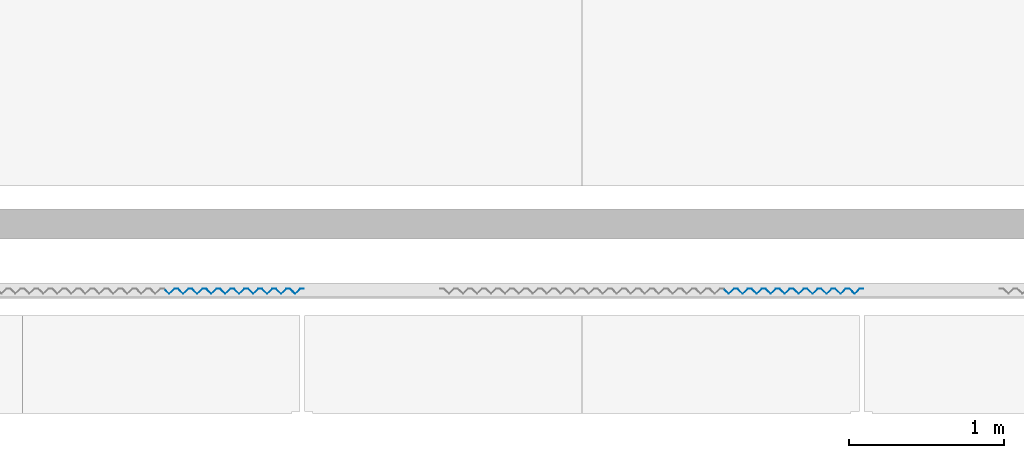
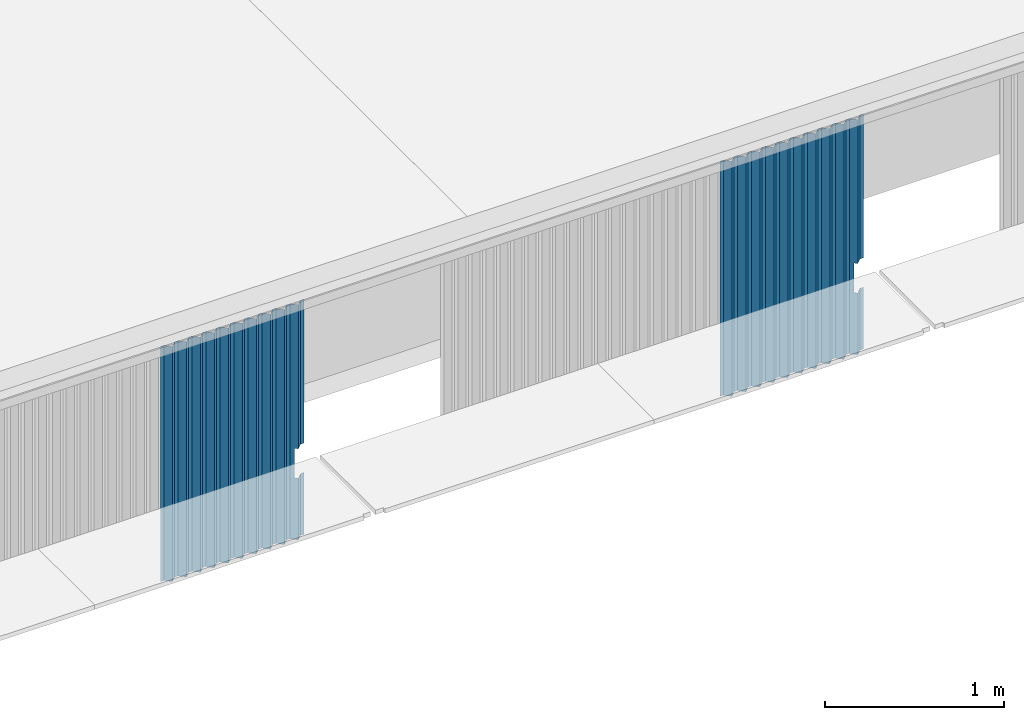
# One storey, part 22 of 37: 2 walls.
"""IFC4X3_ADD2 building model written with IfcOpenShell, lengths in millimetres."""

from ifc_helpers import new_model, si_unit, direction, frame, origin_with_axes, place, context, subcontext, project, spatial, polygons, element, save


model = new_model("IFC4X3_ADD2")

# Units and contexts
model_context = context("Model", 3, precision=1e-05, world=origin_with_axes(), true_north=direction((0.0, 1.0)))
body_context = subcontext(model_context, "Body", "Model", "MODEL_VIEW")
ifc_project = project(units=[si_unit("LENGTHUNIT", "METRE", prefix="MILLI"), si_unit("AREAUNIT", "SQUARE_METRE"), si_unit("VOLUMEUNIT", "CUBIC_METRE"), si_unit("PLANEANGLEUNIT", "RADIAN"), si_unit("TIMEUNIT", "SECOND"), si_unit("MASSUNIT", "GRAM")], contexts=[model_context])

# Site, building, storey
site_placement = place(None, origin_with_axes())
site = spatial("IfcSite", under=ifc_project, at=site_placement, Name="Site", CompositionType="ELEMENT")
building_placement = place(site_placement, origin_with_axes())
building = spatial("IfcBuilding", under=site, at=building_placement, Name="IFC Building Story")
storey_placement = place(building_placement, frame((0.0, 0.0, 14400.0), z_axis=(0.0, 0.0, 1.0), x_axis=(1.0, 0.0, 0.0)))
storey = spatial("IfcBuildingStorey", under=building, at=storey_placement, Name="040", Elevation=14400.0)

# Walls
wall_1_placement = place(storey_placement, frame((0.0, 0.0, -14400.0), z_axis=(0.0, 0.0, 1.0), x_axis=(1.0, 0.0, 0.0)))
element("IfcWall", 1, at=wall_1_placement, inside=storey, Name="BB_07.10_Gevelbekleding_PuntProfiel, 900 mm, console rechts_GMO:900 x 1600 mm", ObjectType="BB_07.10_Gevelbekleding_PuntProfiel, 900 mm, console rechts_GMO:900 x 1600 mm", PredefinedType="NOTDEFINED", context=body_context, shape_type="Tessellation", body=[
    polygons([(-21960.00000000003, -434.9999999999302, 14060.0), (-21960.00000000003, -433.5857864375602, 14060.0), (-21944.99999999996, -448.585786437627, 14060.0), (-21911.41421356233, -414.9999999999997, 14060.0), (-21888.58578643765, -414.9999999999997, 14060.0), (-21889.00000000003, -415.9999999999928, 14060.0), (-21910.99999999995, -415.9999999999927, 14060.0), (-21944.99999999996, -449.9999999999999, 14060.0), (-21960.00000000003, -434.9999999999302, 13860.0), (-21960.00000000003, -433.5857864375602, 13860.0), (-21944.99999999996, -449.9999999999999, 13860.0), (-21910.99999999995, -415.9999999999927, 13860.0), (-21889.00000000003, -415.9999999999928, 13860.0), (-21888.58578643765, -414.9999999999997, 13860.0), (-21911.41421356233, -414.9999999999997, 13860.0), (-21944.99999999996, -448.585786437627, 13860.0), (-22721.00000000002, -415.9999999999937, 15040.0), (-22699.00000000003, -415.9999999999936, 15040.0), (-22665.00000000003, -449.9999999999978, 15040.0), (-22631.00000000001, -415.9999999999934, 15040.0), (-22609.00000000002, -415.9999999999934, 15040.0), (-22575.00000000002, -449.9999999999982, 15040.0), (-22541.00000000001, -415.9999999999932, 15040.0), (-22519.00000000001, -415.9999999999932, 15040.0), (-22485.00000000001, -449.9999999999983, 15040.0), (-22451.0, -415.9999999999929, 15040.0), (-22429.0, -415.9999999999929, 15040.0), (-22395.0, -449.9999999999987, 15040.0), (-22360.99999999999, -415.9999999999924, 15040.0), (-22338.99999999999, -415.9999999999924, 15040.0), (-22304.99999999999, -449.9999999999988, 15040.0), (-22270.99999999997, -415.9999999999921, 15040.0), (-22248.99999999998, -415.9999999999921, 15040.0), (-22214.99999999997, -449.9999999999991, 15040.0), (-22180.99999999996, -415.9999999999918, 15040.0), (-22158.99999999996, -415.9999999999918, 15040.0), (-22124.99999999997, -449.9999999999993, 15040.0), (-22090.99999999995, -415.9999999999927, 15040.0), (-22068.99999999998, -415.9999999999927, 15040.0), (-22034.99999999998, -449.9999999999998, 15040.0), (-22000.99999999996, -415.9999999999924, 15040.0), (-21978.99999999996, -415.9999999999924, 15040.0), (-21944.99999999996, -449.9999999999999, 15040.0), (-21910.99999999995, -415.9999999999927, 15040.0), (-21889.00000000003, -415.9999999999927, 15040.0), (-21888.58578643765, -414.9999999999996, 15040.0), (-21911.41421356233, -414.9999999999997, 15040.0), (-21944.99999999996, -448.585786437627, 15040.0), (-21978.58578643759, -414.9999999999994, 15040.0), (-22001.41421356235, -414.9999999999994, 15040.0), (-22034.99999999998, -448.5857864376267, 15040.0), (-22068.5857864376, -414.9999999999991, 15040.0), (-22091.41421356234, -414.9999999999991, 15040.0), (-22124.99999999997, -448.5857864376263, 15040.0), (-22158.58578643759, -414.9999999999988, 15040.0), (-22181.41421356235, -414.9999999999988, 15040.0), (-22214.99999999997, -448.5857864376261, 15040.0), (-22248.5857864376, -414.9999999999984, 15040.0), (-22271.41421356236, -414.9999999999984, 15040.0), (-22304.99999999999, -448.5857864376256, 15040.0), (-22338.58578643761, -414.9999999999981, 15040.0), (-22361.41421356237, -414.9999999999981, 15040.0), (-22395.0, -448.5857864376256, 15040.0), (-22428.58578643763, -414.999999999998, 15040.0), (-22451.41421356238, -414.999999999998, 15040.0), (-22485.00000000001, -448.5857864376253, 15040.0), (-22518.58578643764, -414.9999999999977, 15040.0), (-22541.41421356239, -414.9999999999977, 15040.0), (-22575.00000000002, -448.5857864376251, 15040.0), (-22608.58578643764, -414.9999999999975, 15040.0), (-22631.4142135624, -414.9999999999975, 15040.0), (-22665.00000000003, -448.5857864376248, 15040.0), (-22698.58578643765, -414.9999999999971, 15040.0), (-22721.4142135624, -414.9999999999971, 15040.0), (-22755.00000000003, -448.5857864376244, 15040.0), (-22788.58578643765, -414.9999999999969, 15040.0), (-22811.4142135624, -414.9999999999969, 15040.0), (-22811.00000000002, -415.9999999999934, 15040.0), (-22789.00000000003, -415.9999999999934, 15040.0), (-22755.00000000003, -449.9999999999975, 15040.0), (-22721.00000000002, -415.9999999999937, 13440.0), (-22755.00000000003, -449.9999999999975, 13440.0), (-22789.00000000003, -415.9999999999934, 13440.0), (-22811.00000000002, -415.9999999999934, 13440.0), (-22811.4142135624, -414.9999999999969, 13440.0), (-22788.58578643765, -414.9999999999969, 13440.0), (-22755.00000000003, -448.5857864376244, 13440.0), (-22721.4142135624, -414.9999999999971, 13440.0), (-22698.58578643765, -414.9999999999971, 13440.0), (-22665.00000000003, -448.5857864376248, 13440.0), (-22631.4142135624, -414.9999999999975, 13440.0), (-22608.58578643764, -414.9999999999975, 13440.0), (-22575.00000000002, -448.5857864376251, 13440.0), (-22541.41421356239, -414.9999999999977, 13440.0), (-22518.58578643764, -414.9999999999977, 13440.0), (-22485.00000000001, -448.5857864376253, 13440.0), (-22451.41421356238, -414.999999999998, 13440.0), (-22428.58578643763, -414.999999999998, 13440.0), (-22395.0, -448.5857864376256, 13440.0), (-22361.41421356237, -414.9999999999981, 13440.0), (-22338.58578643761, -414.9999999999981, 13440.0), (-22304.99999999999, -448.5857864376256, 13440.0), (-22271.41421356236, -414.9999999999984, 13440.0), (-22248.5857864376, -414.9999999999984, 13440.0), (-22214.99999999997, -448.5857864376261, 13440.0), (-22181.41421356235, -414.9999999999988, 13440.0), (-22158.58578643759, -414.9999999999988, 13440.0), (-22124.99999999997, -448.5857864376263, 13440.0), (-22091.41421356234, -414.9999999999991, 13440.0), (-22068.5857864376, -414.9999999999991, 13440.0), (-22034.99999999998, -448.5857864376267, 13440.0), (-22001.41421356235, -414.9999999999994, 13440.0), (-21978.58578643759, -414.9999999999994, 13440.0), (-21944.99999999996, -448.585786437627, 13440.0), (-21911.41421356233, -414.9999999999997, 13440.0), (-21888.58578643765, -414.9999999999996, 13440.0), (-21889.00000000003, -415.9999999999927, 13440.0), (-21910.99999999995, -415.9999999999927, 13440.0), (-21944.99999999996, -449.9999999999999, 13440.0), (-21978.99999999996, -415.9999999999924, 13440.0), (-22000.99999999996, -415.9999999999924, 13440.0), (-22034.99999999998, -449.9999999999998, 13440.0), (-22068.99999999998, -415.9999999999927, 13440.0), (-22090.99999999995, -415.9999999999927, 13440.0), (-22124.99999999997, -449.9999999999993, 13440.0), (-22158.99999999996, -415.9999999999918, 13440.0), (-22180.99999999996, -415.9999999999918, 13440.0), (-22214.99999999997, -449.9999999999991, 13440.0), (-22248.99999999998, -415.9999999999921, 13440.0), (-22270.99999999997, -415.9999999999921, 13440.0), (-22304.99999999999, -449.9999999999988, 13440.0), (-22338.99999999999, -415.9999999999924, 13440.0), (-22360.99999999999, -415.9999999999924, 13440.0), (-22395.0, -449.9999999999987, 13440.0), (-22429.0, -415.9999999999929, 13440.0), (-22451.0, -415.9999999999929, 13440.0), (-22485.00000000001, -449.9999999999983, 13440.0), (-22519.00000000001, -415.9999999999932, 13440.0), (-22541.00000000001, -415.9999999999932, 13440.0), (-22575.00000000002, -449.9999999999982, 13440.0), (-22609.00000000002, -415.9999999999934, 13440.0), (-22631.00000000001, -415.9999999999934, 13440.0), (-22665.00000000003, -449.9999999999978, 13440.0), (-22699.00000000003, -415.9999999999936, 13440.0)], [[[7, 8, 3]], [[7, 3, 4]], [[4, 5, 6]], [[4, 6, 7]], [[8, 1, 2]], [[8, 2, 3]], [[2, 1, 9, 10]], [[12, 13, 14]], [[12, 14, 15]], [[16, 10, 9]], [[16, 9, 11]], [[11, 12, 15]], [[11, 15, 16]], [[44, 45, 46]], [[44, 46, 47]], [[48, 49, 42]], [[48, 42, 43]], [[43, 44, 47]], [[43, 47, 48]], [[49, 50, 41]], [[49, 41, 42]], [[51, 52, 39]], [[51, 39, 40]], [[40, 41, 50]], [[40, 50, 51]], [[52, 53, 38]], [[52, 38, 39]], [[54, 55, 36]], [[54, 36, 37]], [[37, 38, 53]], [[37, 53, 54]], [[55, 56, 35]], [[55, 35, 36]], [[57, 58, 33]], [[57, 33, 34]], [[34, 35, 56]], [[34, 56, 57]], [[58, 59, 32]], [[58, 32, 33]], [[60, 61, 30]], [[60, 30, 31]], [[31, 32, 59]], [[31, 59, 60]], [[61, 62, 29]], [[61, 29, 30]], [[63, 64, 27]], [[63, 27, 28]], [[28, 29, 62]], [[28, 62, 63]], [[64, 65, 26]], [[64, 26, 27]], [[66, 67, 24]], [[66, 24, 25]], [[25, 26, 65]], [[25, 65, 66]], [[67, 68, 23]], [[67, 23, 24]], [[69, 70, 21]], [[69, 21, 22]], [[22, 23, 68]], [[22, 68, 69]], [[70, 71, 20]], [[70, 20, 21]], [[72, 73, 18]], [[72, 18, 19]], [[19, 20, 71]], [[19, 71, 72]], [[73, 74, 17]], [[73, 17, 18]], [[79, 80, 75]], [[79, 75, 76]], [[76, 77, 78]], [[76, 78, 79]], [[80, 17, 74]], [[80, 74, 75]], [[83, 84, 85]], [[83, 85, 86]], [[87, 88, 81]], [[87, 81, 82]], [[82, 83, 86]], [[82, 86, 87]], [[118, 119, 114]], [[118, 114, 115]], [[115, 116, 117]], [[115, 117, 118]], [[121, 122, 111]], [[121, 111, 112]], [[112, 113, 120]], [[112, 120, 121]], [[113, 114, 119]], [[113, 119, 120]], [[124, 125, 108]], [[124, 108, 109]], [[109, 110, 123]], [[109, 123, 124]], [[110, 111, 122]], [[110, 122, 123]], [[127, 128, 105]], [[127, 105, 106]], [[106, 107, 126]], [[106, 126, 127]], [[107, 108, 125]], [[107, 125, 126]], [[130, 131, 102]], [[130, 102, 103]], [[103, 104, 129]], [[103, 129, 130]], [[104, 105, 128]], [[104, 128, 129]], [[133, 134, 99]], [[133, 99, 100]], [[100, 101, 132]], [[100, 132, 133]], [[101, 102, 131]], [[101, 131, 132]], [[136, 137, 96]], [[136, 96, 97]], [[97, 98, 135]], [[97, 135, 136]], [[98, 99, 134]], [[98, 134, 135]], [[139, 140, 93]], [[139, 93, 94]], [[94, 95, 138]], [[94, 138, 139]], [[95, 96, 137]], [[95, 137, 138]], [[142, 143, 90]], [[142, 90, 91]], [[91, 92, 141]], [[91, 141, 142]], [[92, 93, 140]], [[92, 140, 141]], [[144, 81, 88]], [[144, 88, 89]], [[89, 90, 143]], [[89, 143, 144]], [[18, 17, 81, 144]], [[19, 18, 144, 143]], [[20, 19, 143, 142]], [[21, 20, 142, 141]], [[22, 21, 141, 140]], [[23, 22, 140, 139]], [[24, 23, 139, 138]], [[25, 24, 138, 137]], [[26, 25, 137, 136]], [[27, 26, 136, 135]], [[28, 27, 135, 134]], [[29, 28, 134, 133]], [[30, 29, 133, 132]], [[31, 30, 132, 131]], [[32, 31, 131, 130]], [[33, 32, 130, 129]], [[34, 33, 129, 128]], [[35, 34, 128, 127]], [[36, 35, 127, 126]], [[37, 36, 126, 125]], [[38, 37, 125, 124]], [[54, 53, 109, 108]], [[55, 54, 108, 107]], [[56, 55, 107, 106]], [[57, 56, 106, 105]], [[58, 57, 105, 104]], [[59, 58, 104, 103]], [[60, 59, 103, 102]], [[61, 60, 102, 101]], [[62, 61, 101, 100]], [[63, 62, 100, 99]], [[64, 63, 99, 98]], [[65, 64, 98, 97]], [[66, 65, 97, 96]], [[67, 66, 96, 95]], [[68, 67, 95, 94]], [[69, 68, 94, 93]], [[70, 69, 93, 92]], [[71, 70, 92, 91]], [[72, 71, 91, 90]], [[73, 72, 90, 89]], [[74, 73, 89, 88]], [[80, 79, 83, 82]], [[17, 80, 82, 81]], [[39, 38, 124, 123]], [[40, 39, 123, 122]], [[41, 40, 122, 121]], [[42, 41, 121, 120]], [[1, 8, 43]], [[1, 43, 42]], [[42, 9, 1]], [[42, 120, 9]], [[120, 119, 11]], [[120, 11, 9]], [[44, 43, 8, 7]], [[45, 44, 7, 6]], [[47, 46, 5, 4]], [[48, 47, 4, 3]], [[10, 16, 114]], [[10, 114, 113]], [[113, 2, 10]], [[2, 113, 49]], [[49, 48, 2]], [[48, 3, 2]], [[50, 49, 113, 112]], [[51, 50, 112, 111]], [[52, 51, 111, 110]], [[53, 52, 110, 109]], [[75, 74, 88, 87]], [[76, 75, 87, 86]], [[46, 45, 6, 5]], [[77, 76, 86, 85]], [[78, 77, 85, 84]], [[79, 78, 84, 83]], [[117, 116, 14, 13]], [[115, 114, 16, 15]], [[116, 115, 15, 14]], [[118, 117, 13, 12]], [[119, 118, 12, 11]]]),
])
wall_2_placement = place(storey_placement, frame((0.0, 0.0, -14400.0), z_axis=(0.0, 0.0, 1.0), x_axis=(1.0, 0.0, 0.0)))
element("IfcWall", 2, at=wall_2_placement, inside=storey, Name="BB_07.10_Gevelbekleding_PuntProfiel, 900 mm, console rechts_GMO:900 x 1600 mm", ObjectType="BB_07.10_Gevelbekleding_PuntProfiel, 900 mm, console rechts_GMO:900 x 1600 mm", PredefinedType="NOTDEFINED", context=body_context, shape_type="Tessellation", body=[
    polygons([(-18360.00000000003, -434.9999999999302, 14060.0), (-18360.00000000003, -433.5857864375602, 14060.0), (-18344.99999999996, -448.585786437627, 14060.0), (-18311.41421356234, -414.9999999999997, 14060.0), (-18288.58578643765, -414.9999999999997, 14060.0), (-18289.00000000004, -415.9999999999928, 14060.0), (-18310.99999999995, -415.9999999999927, 14060.0), (-18344.99999999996, -449.9999999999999, 14060.0), (-18360.00000000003, -434.9999999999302, 13860.0), (-18360.00000000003, -433.5857864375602, 13860.0), (-18344.99999999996, -449.9999999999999, 13860.0), (-18310.99999999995, -415.9999999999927, 13860.0), (-18289.00000000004, -415.9999999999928, 13860.0), (-18288.58578643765, -414.9999999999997, 13860.0), (-18311.41421356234, -414.9999999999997, 13860.0), (-18344.99999999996, -448.585786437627, 13860.0), (-19121.00000000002, -415.9999999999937, 15040.0), (-19099.00000000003, -415.9999999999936, 15040.0), (-19065.00000000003, -449.9999999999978, 15040.0), (-19031.00000000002, -415.9999999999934, 15040.0), (-19009.00000000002, -415.9999999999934, 15040.0), (-18975.00000000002, -449.9999999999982, 15040.0), (-18941.00000000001, -415.9999999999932, 15040.0), (-18919.00000000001, -415.9999999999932, 15040.0), (-18885.00000000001, -449.9999999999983, 15040.0), (-18851.0, -415.9999999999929, 15040.0), (-18829.0, -415.9999999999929, 15040.0), (-18795.0, -449.9999999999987, 15040.0), (-18760.99999999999, -415.9999999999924, 15040.0), (-18738.99999999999, -415.9999999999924, 15040.0), (-18704.99999999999, -449.9999999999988, 15040.0), (-18670.99999999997, -415.9999999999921, 15040.0), (-18648.99999999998, -415.9999999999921, 15040.0), (-18614.99999999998, -449.9999999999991, 15040.0), (-18580.99999999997, -415.9999999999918, 15040.0), (-18558.99999999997, -415.9999999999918, 15040.0), (-18524.99999999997, -449.9999999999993, 15040.0), (-18490.99999999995, -415.9999999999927, 15040.0), (-18468.99999999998, -415.9999999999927, 15040.0), (-18434.99999999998, -449.9999999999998, 15040.0), (-18400.99999999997, -415.9999999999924, 15040.0), (-18378.99999999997, -415.9999999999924, 15040.0), (-18344.99999999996, -449.9999999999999, 15040.0), (-18310.99999999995, -415.9999999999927, 15040.0), (-18289.00000000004, -415.9999999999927, 15040.0), (-18288.58578643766, -414.9999999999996, 15040.0), (-18311.41421356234, -414.9999999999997, 15040.0), (-18344.99999999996, -448.585786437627, 15040.0), (-18378.5857864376, -414.9999999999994, 15040.0), (-18401.41421356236, -414.9999999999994, 15040.0), (-18434.99999999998, -448.5857864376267, 15040.0), (-18468.5857864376, -414.9999999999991, 15040.0), (-18491.41421356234, -414.9999999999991, 15040.0), (-18524.99999999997, -448.5857864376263, 15040.0), (-18558.58578643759, -414.9999999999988, 15040.0), (-18581.41421356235, -414.9999999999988, 15040.0), (-18614.99999999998, -448.5857864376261, 15040.0), (-18648.58578643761, -414.9999999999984, 15040.0), (-18671.41421356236, -414.9999999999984, 15040.0), (-18704.99999999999, -448.5857864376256, 15040.0), (-18738.58578643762, -414.9999999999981, 15040.0), (-18761.41421356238, -414.9999999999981, 15040.0), (-18795.0, -448.5857864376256, 15040.0), (-18828.58578643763, -414.999999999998, 15040.0), (-18851.41421356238, -414.999999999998, 15040.0), (-18885.00000000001, -448.5857864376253, 15040.0), (-18918.58578643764, -414.9999999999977, 15040.0), (-18941.41421356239, -414.9999999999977, 15040.0), (-18975.00000000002, -448.5857864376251, 15040.0), (-19008.58578643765, -414.9999999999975, 15040.0), (-19031.4142135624, -414.9999999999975, 15040.0), (-19065.00000000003, -448.5857864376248, 15040.0), (-19098.58578643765, -414.9999999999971, 15040.0), (-19121.4142135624, -414.9999999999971, 15040.0), (-19155.00000000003, -448.5857864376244, 15040.0), (-19188.58578643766, -414.9999999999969, 15040.0), (-19211.4142135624, -414.9999999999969, 15040.0), (-19211.00000000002, -415.9999999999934, 15040.0), (-19189.00000000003, -415.9999999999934, 15040.0), (-19155.00000000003, -449.9999999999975, 15040.0), (-19121.00000000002, -415.9999999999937, 13440.0), (-19155.00000000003, -449.9999999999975, 13440.0), (-19189.00000000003, -415.9999999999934, 13440.0), (-19211.00000000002, -415.9999999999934, 13440.0), (-19211.4142135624, -414.9999999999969, 13440.0), (-19188.58578643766, -414.9999999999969, 13440.0), (-19155.00000000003, -448.5857864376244, 13440.0), (-19121.4142135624, -414.9999999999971, 13440.0), (-19098.58578643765, -414.9999999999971, 13440.0), (-19065.00000000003, -448.5857864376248, 13440.0), (-19031.4142135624, -414.9999999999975, 13440.0), (-19008.58578643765, -414.9999999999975, 13440.0), (-18975.00000000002, -448.5857864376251, 13440.0), (-18941.41421356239, -414.9999999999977, 13440.0), (-18918.58578643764, -414.9999999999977, 13440.0), (-18885.00000000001, -448.5857864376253, 13440.0), (-18851.41421356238, -414.999999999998, 13440.0), (-18828.58578643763, -414.999999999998, 13440.0), (-18795.0, -448.5857864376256, 13440.0), (-18761.41421356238, -414.9999999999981, 13440.0), (-18738.58578643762, -414.9999999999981, 13440.0), (-18704.99999999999, -448.5857864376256, 13440.0), (-18671.41421356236, -414.9999999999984, 13440.0), (-18648.58578643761, -414.9999999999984, 13440.0), (-18614.99999999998, -448.5857864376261, 13440.0), (-18581.41421356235, -414.9999999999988, 13440.0), (-18558.58578643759, -414.9999999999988, 13440.0), (-18524.99999999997, -448.5857864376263, 13440.0), (-18491.41421356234, -414.9999999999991, 13440.0), (-18468.5857864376, -414.9999999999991, 13440.0), (-18434.99999999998, -448.5857864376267, 13440.0), (-18401.41421356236, -414.9999999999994, 13440.0), (-18378.5857864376, -414.9999999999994, 13440.0), (-18344.99999999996, -448.585786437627, 13440.0), (-18311.41421356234, -414.9999999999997, 13440.0), (-18288.58578643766, -414.9999999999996, 13440.0), (-18289.00000000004, -415.9999999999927, 13440.0), (-18310.99999999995, -415.9999999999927, 13440.0), (-18344.99999999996, -449.9999999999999, 13440.0), (-18378.99999999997, -415.9999999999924, 13440.0), (-18400.99999999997, -415.9999999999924, 13440.0), (-18434.99999999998, -449.9999999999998, 13440.0), (-18468.99999999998, -415.9999999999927, 13440.0), (-18490.99999999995, -415.9999999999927, 13440.0), (-18524.99999999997, -449.9999999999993, 13440.0), (-18558.99999999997, -415.9999999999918, 13440.0), (-18580.99999999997, -415.9999999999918, 13440.0), (-18614.99999999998, -449.9999999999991, 13440.0), (-18648.99999999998, -415.9999999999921, 13440.0), (-18670.99999999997, -415.9999999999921, 13440.0), (-18704.99999999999, -449.9999999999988, 13440.0), (-18738.99999999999, -415.9999999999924, 13440.0), (-18760.99999999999, -415.9999999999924, 13440.0), (-18795.0, -449.9999999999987, 13440.0), (-18829.0, -415.9999999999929, 13440.0), (-18851.0, -415.9999999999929, 13440.0), (-18885.00000000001, -449.9999999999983, 13440.0), (-18919.00000000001, -415.9999999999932, 13440.0), (-18941.00000000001, -415.9999999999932, 13440.0), (-18975.00000000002, -449.9999999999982, 13440.0), (-19009.00000000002, -415.9999999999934, 13440.0), (-19031.00000000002, -415.9999999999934, 13440.0), (-19065.00000000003, -449.9999999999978, 13440.0), (-19099.00000000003, -415.9999999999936, 13440.0)], [[[7, 8, 3]], [[7, 3, 4]], [[4, 5, 6]], [[4, 6, 7]], [[8, 1, 2]], [[8, 2, 3]], [[2, 1, 9, 10]], [[12, 13, 14]], [[12, 14, 15]], [[16, 10, 9]], [[16, 9, 11]], [[11, 12, 15]], [[11, 15, 16]], [[44, 45, 46]], [[44, 46, 47]], [[48, 49, 42]], [[48, 42, 43]], [[43, 44, 47]], [[43, 47, 48]], [[49, 50, 41]], [[49, 41, 42]], [[51, 52, 39]], [[51, 39, 40]], [[40, 41, 50]], [[40, 50, 51]], [[52, 53, 38]], [[52, 38, 39]], [[54, 55, 36]], [[54, 36, 37]], [[37, 38, 53]], [[37, 53, 54]], [[55, 56, 35]], [[55, 35, 36]], [[57, 58, 33]], [[57, 33, 34]], [[34, 35, 56]], [[34, 56, 57]], [[58, 59, 32]], [[58, 32, 33]], [[60, 61, 30]], [[60, 30, 31]], [[31, 32, 59]], [[31, 59, 60]], [[61, 62, 29]], [[61, 29, 30]], [[63, 64, 27]], [[63, 27, 28]], [[28, 29, 62]], [[28, 62, 63]], [[64, 65, 26]], [[64, 26, 27]], [[66, 67, 24]], [[66, 24, 25]], [[25, 26, 65]], [[25, 65, 66]], [[67, 68, 23]], [[67, 23, 24]], [[69, 70, 21]], [[69, 21, 22]], [[22, 23, 68]], [[22, 68, 69]], [[70, 71, 20]], [[70, 20, 21]], [[72, 73, 18]], [[72, 18, 19]], [[19, 20, 71]], [[19, 71, 72]], [[73, 74, 17]], [[73, 17, 18]], [[79, 80, 75]], [[79, 75, 76]], [[76, 77, 78]], [[76, 78, 79]], [[80, 17, 74]], [[80, 74, 75]], [[83, 84, 85]], [[83, 85, 86]], [[87, 88, 81]], [[87, 81, 82]], [[82, 83, 86]], [[82, 86, 87]], [[118, 119, 114]], [[118, 114, 115]], [[115, 116, 117]], [[115, 117, 118]], [[121, 122, 111]], [[121, 111, 112]], [[112, 113, 120]], [[112, 120, 121]], [[113, 114, 119]], [[113, 119, 120]], [[124, 125, 108]], [[124, 108, 109]], [[109, 110, 123]], [[109, 123, 124]], [[110, 111, 122]], [[110, 122, 123]], [[127, 128, 105]], [[127, 105, 106]], [[106, 107, 126]], [[106, 126, 127]], [[107, 108, 125]], [[107, 125, 126]], [[130, 131, 102]], [[130, 102, 103]], [[103, 104, 129]], [[103, 129, 130]], [[104, 105, 128]], [[104, 128, 129]], [[133, 134, 99]], [[133, 99, 100]], [[100, 101, 132]], [[100, 132, 133]], [[101, 102, 131]], [[101, 131, 132]], [[136, 137, 96]], [[136, 96, 97]], [[97, 98, 135]], [[97, 135, 136]], [[98, 99, 134]], [[98, 134, 135]], [[139, 140, 93]], [[139, 93, 94]], [[94, 95, 138]], [[94, 138, 139]], [[95, 96, 137]], [[95, 137, 138]], [[142, 143, 90]], [[142, 90, 91]], [[91, 92, 141]], [[91, 141, 142]], [[92, 93, 140]], [[92, 140, 141]], [[144, 81, 88]], [[144, 88, 89]], [[89, 90, 143]], [[89, 143, 144]], [[18, 17, 81, 144]], [[19, 18, 144, 143]], [[20, 19, 143, 142]], [[21, 20, 142, 141]], [[22, 21, 141, 140]], [[23, 22, 140, 139]], [[24, 23, 139, 138]], [[25, 24, 138, 137]], [[26, 25, 137, 136]], [[27, 26, 136, 135]], [[28, 27, 135, 134]], [[29, 28, 134, 133]], [[30, 29, 133, 132]], [[31, 30, 132, 131]], [[32, 31, 131, 130]], [[33, 32, 130, 129]], [[34, 33, 129, 128]], [[35, 34, 128, 127]], [[36, 35, 127, 126]], [[37, 36, 126, 125]], [[38, 37, 125, 124]], [[54, 53, 109, 108]], [[55, 54, 108, 107]], [[56, 55, 107, 106]], [[57, 56, 106, 105]], [[58, 57, 105, 104]], [[59, 58, 104, 103]], [[60, 59, 103, 102]], [[61, 60, 102, 101]], [[62, 61, 101, 100]], [[63, 62, 100, 99]], [[64, 63, 99, 98]], [[65, 64, 98, 97]], [[66, 65, 97, 96]], [[67, 66, 96, 95]], [[68, 67, 95, 94]], [[69, 68, 94, 93]], [[70, 69, 93, 92]], [[71, 70, 92, 91]], [[72, 71, 91, 90]], [[73, 72, 90, 89]], [[74, 73, 89, 88]], [[80, 79, 83, 82]], [[17, 80, 82, 81]], [[39, 38, 124, 123]], [[40, 39, 123, 122]], [[41, 40, 122, 121]], [[42, 41, 121, 120]], [[1, 8, 43]], [[1, 43, 42]], [[42, 9, 1]], [[42, 120, 9]], [[120, 119, 11]], [[120, 11, 9]], [[44, 43, 8, 7]], [[45, 44, 7, 6]], [[47, 46, 5, 4]], [[48, 47, 4, 3]], [[10, 16, 114]], [[10, 114, 113]], [[113, 2, 10]], [[2, 113, 49]], [[49, 48, 2]], [[48, 3, 2]], [[50, 49, 113, 112]], [[51, 50, 112, 111]], [[52, 51, 111, 110]], [[53, 52, 110, 109]], [[75, 74, 88, 87]], [[76, 75, 87, 86]], [[46, 45, 6, 5]], [[77, 76, 86, 85]], [[78, 77, 85, 84]], [[79, 78, 84, 83]], [[117, 116, 14, 13]], [[115, 114, 16, 15]], [[116, 115, 15, 14]], [[118, 117, 13, 12]], [[119, 118, 12, 11]]]),
])

save(model, "model.ifc")
